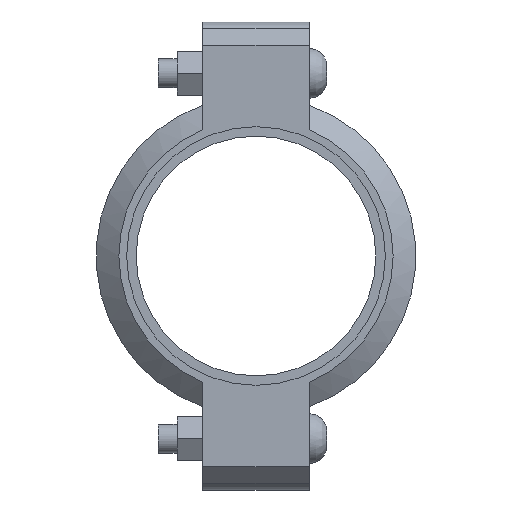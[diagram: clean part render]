
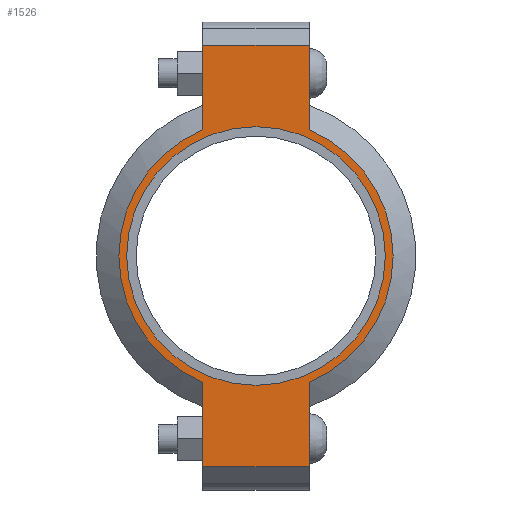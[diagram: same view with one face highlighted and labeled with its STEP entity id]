
A CAD part, left-side view. The second image highlights one B-rep face of the part: STEP entity #1526.
In plain terms, the highlighted planar face has unit normal (-1, 0, 0) as drawn and (0, 0, 1) by its records, which use the part's own axes.
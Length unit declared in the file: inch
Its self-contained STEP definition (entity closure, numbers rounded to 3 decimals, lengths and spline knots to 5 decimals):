
#150=LINE('',#2672,#243);
#158=LINE('',#2708,#251);
#165=LINE('',#2729,#258);
#174=LINE('',#2761,#267);
#175=LINE('',#2765,#268);
#176=LINE('',#2767,#269);
#243=VECTOR('',#2184,0.3937);
#251=VECTOR('',#2200,0.3937);
#258=VECTOR('',#2219,0.3937);
#267=VECTOR('',#2244,0.3937);
#268=VECTOR('',#2249,0.3937);
#269=VECTOR('',#2250,0.3937);
#325=FACE_BOUND('',#503,.T.);
#397=FACE_OUTER_BOUND('',#502,.T.);
#502=EDGE_LOOP('',(#1267,#1268,#1269,#1270,#1271,#1272,#1273,#1274));
#503=EDGE_LOOP('',(#1275));
#575=CIRCLE('',#1754,2.7815);
#601=CIRCLE('',#1813,2.95);
#602=CIRCLE('',#1814,2.95);
#667=VERTEX_POINT('',#2488);
#710=VERTEX_POINT('',#2669);
#711=VERTEX_POINT('',#2671);
#722=VERTEX_POINT('',#2703);
#723=VERTEX_POINT('',#2707);
#730=VERTEX_POINT('',#2726);
#731=VERTEX_POINT('',#2728);
#741=VERTEX_POINT('',#2764);
#742=VERTEX_POINT('',#2766);
#823=EDGE_CURVE('',#667,#667,#575,.T.);
#884=EDGE_CURVE('',#711,#710,#150,.T.);
#898=EDGE_CURVE('',#723,#722,#158,.T.);
#908=EDGE_CURVE('',#731,#730,#165,.T.);
#923=EDGE_CURVE('',#723,#710,#174,.T.);
#924=EDGE_CURVE('',#722,#731,#601,.T.);
#925=EDGE_CURVE('',#741,#730,#175,.T.);
#926=EDGE_CURVE('',#741,#742,#176,.T.);
#927=EDGE_CURVE('',#742,#711,#602,.T.);
#1267=ORIENTED_EDGE('',*,*,#923,.F.);
#1268=ORIENTED_EDGE('',*,*,#898,.T.);
#1269=ORIENTED_EDGE('',*,*,#924,.T.);
#1270=ORIENTED_EDGE('',*,*,#908,.T.);
#1271=ORIENTED_EDGE('',*,*,#925,.F.);
#1272=ORIENTED_EDGE('',*,*,#926,.T.);
#1273=ORIENTED_EDGE('',*,*,#927,.T.);
#1274=ORIENTED_EDGE('',*,*,#884,.T.);
#1275=ORIENTED_EDGE('',*,*,#823,.T.);
#1368=PLANE('',#1812);
#1526=ADVANCED_FACE('',(#397,#325),#1368,.T.);
#1754=AXIS2_PLACEMENT_3D('',#2490,#2060,#2061);
#1812=AXIS2_PLACEMENT_3D('',#2762,#2245,#2246);
#1813=AXIS2_PLACEMENT_3D('',#2763,#2247,#2248);
#1814=AXIS2_PLACEMENT_3D('',#2768,#2251,#2252);
#2060=DIRECTION('center_axis',(0.,0.,-1.));
#2061=DIRECTION('ref_axis',(1.,0.,0.));
#2184=DIRECTION('',(1.,0.,0.));
#2200=DIRECTION('',(-1.,0.,0.));
#2219=DIRECTION('',(-1.,0.,0.));
#2244=DIRECTION('',(0.,-1.,0.));
#2245=DIRECTION('center_axis',(0.,0.,1.));
#2246=DIRECTION('ref_axis',(-1.,0.,0.));
#2247=DIRECTION('center_axis',(0.,0.,1.));
#2248=DIRECTION('ref_axis',(1.,0.,0.));
#2249=DIRECTION('',(0.,1.,0.));
#2250=DIRECTION('',(1.,0.,0.));
#2251=DIRECTION('center_axis',(0.,0.,1.));
#2252=DIRECTION('ref_axis',(1.,0.,0.));
#2488=CARTESIAN_POINT('',(-2.7815,0.,1.065));
#2490=CARTESIAN_POINT('Origin',(0.,0.,1.065));
#2669=CARTESIAN_POINT('',(4.535,-1.15,1.065));
#2671=CARTESIAN_POINT('',(2.71662,-1.15,1.065));
#2672=CARTESIAN_POINT('',(5.035,-1.15,1.065));
#2703=CARTESIAN_POINT('',(2.71662,1.15,1.065));
#2707=CARTESIAN_POINT('',(4.535,1.15,1.065));
#2708=CARTESIAN_POINT('',(-5.035,1.15,1.065));
#2726=CARTESIAN_POINT('',(-4.535,1.15,1.065));
#2728=CARTESIAN_POINT('',(-2.71662,1.15,1.065));
#2729=CARTESIAN_POINT('',(-5.035,1.15,1.065));
#2761=CARTESIAN_POINT('',(4.535,-0.575,1.065));
#2762=CARTESIAN_POINT('Origin',(0.,0.,
1.065));
#2763=CARTESIAN_POINT('Origin',(0.,0.,1.065));
#2764=CARTESIAN_POINT('',(-4.535,-1.15,1.065));
#2765=CARTESIAN_POINT('',(-4.535,0.575,1.065));
#2766=CARTESIAN_POINT('',(-2.71662,-1.15,1.065));
#2767=CARTESIAN_POINT('',(5.035,-1.15,1.065));
#2768=CARTESIAN_POINT('Origin',(0.,0.,1.065));
